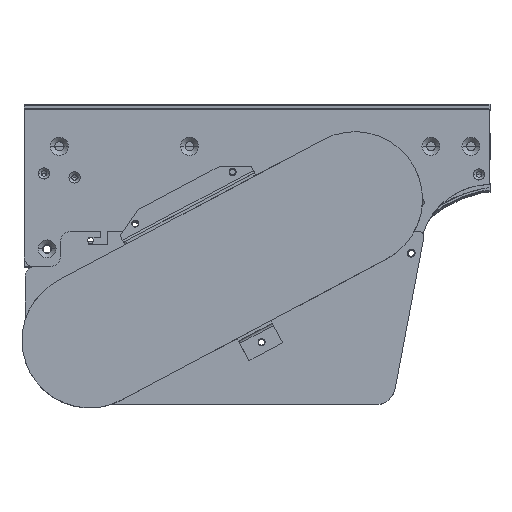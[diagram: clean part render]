
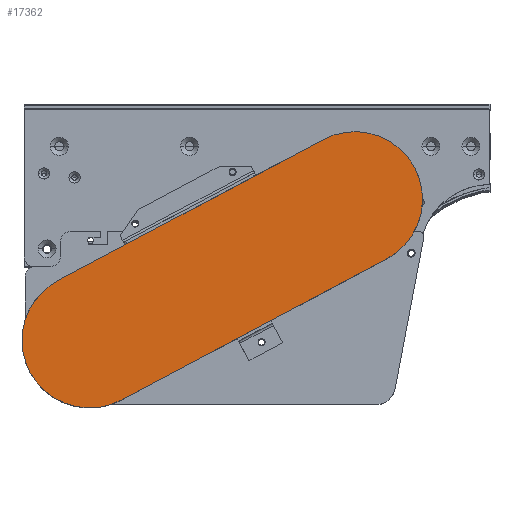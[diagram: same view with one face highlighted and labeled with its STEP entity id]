
A CAD part, top view. The second image highlights one B-rep face of the part: STEP entity #17362.
In plain terms, the highlighted planar face has unit normal (0, 0, 1).
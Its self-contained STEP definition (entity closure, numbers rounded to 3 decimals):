
#72 = CIRCLE ( 'NONE', #8050, 67.5 ) ;
#818 = VECTOR ( 'NONE', #12625, 1000. ) ;
#1345 = VERTEX_POINT ( 'NONE', #10501 ) ;
#1399 = CARTESIAN_POINT ( 'NONE',  ( 5.613, -225.488, 115.5 ) ) ;
#1446 = DIRECTION ( 'NONE',  ( -0.469, 0.883, 0. ) ) ;
#1865 = CARTESIAN_POINT ( 'NONE',  ( 65.212, -193.798, 115.5 ) ) ;
#2234 = VERTEX_POINT ( 'NONE', #12866 ) ;
#2292 = VECTOR ( 'NONE', #1446, 1000. ) ;
#2303 = ORIENTED_EDGE ( 'NONE', *, *, #11824, .T. ) ;
#2588 = LINE ( 'NONE', #19483, #8765 ) ;
#2819 = ORIENTED_EDGE ( 'NONE', *, *, #21972, .T. ) ;
#3898 = DIRECTION ( 'NONE',  ( 0., 0., 1. ) ) ;
#4210 = CIRCLE ( 'NONE', #7670, 67.49 ) ;
#4562 = CARTESIAN_POINT ( 'NONE',  ( 389.7, -21.276, 115.5 ) ) ;
#4686 = LINE ( 'NONE', #23078, #818 ) ;
#5678 = CARTESIAN_POINT ( 'NONE',  ( 65.208, -193.812, 115.5 ) ) ;
#6003 = DIRECTION ( 'NONE',  ( 1., 0., 0. ) ) ;
#6900 = CARTESIAN_POINT ( 'NONE',  ( 5.618, -225.497, 115.5 ) ) ;
#7110 = EDGE_CURVE ( 'NONE', #2234, #26380, #14036, .T. ) ;
#7276 = EDGE_CURVE ( 'NONE', #10854, #13849, #4686, .T. ) ;
#7337 = VERTEX_POINT ( 'NONE', #12974 ) ;
#7442 = VERTEX_POINT ( 'NONE', #25703 ) ;
#7670 = AXIS2_PLACEMENT_3D ( 'NONE', #5678, #19805, #23985 ) ;
#8050 = AXIS2_PLACEMENT_3D ( 'NONE', #23235, #3898, #24306 ) ;
#8071 = EDGE_CURVE ( 'NONE', #9202, #10854, #72, .T. ) ;
#8123 = ORIENTED_EDGE ( 'NONE', *, *, #7110, .T. ) ;
#8257 = VECTOR ( 'NONE', #26443, 1000. ) ;
#8448 = ORIENTED_EDGE ( 'NONE', *, *, #16601, .T. ) ;
#8765 = VECTOR ( 'NONE', #21548, 1000. ) ;
#9202 = VERTEX_POINT ( 'NONE', #11508 ) ;
#9971 = ORIENTED_EDGE ( 'NONE', *, *, #11202, .T. ) ;
#10208 = CARTESIAN_POINT ( 'NONE',  ( 96.892, -253.402, 115.5 ) ) ;
#10273 = AXIS2_PLACEMENT_3D ( 'NONE', #13575, #21739, #23866 ) ;
#10501 = CARTESIAN_POINT ( 'NONE',  ( 389.695, -21.268, 115.5 ) ) ;
#10631 = FACE_OUTER_BOUND ( 'NONE', #20506, .T. ) ;
#10693 = LINE ( 'NONE', #19564, #2292 ) ;
#10854 = VERTEX_POINT ( 'NONE', #1399 ) ;
#11202 = EDGE_CURVE ( 'NONE', #7442, #7337, #2588, .T. ) ;
#11508 = CARTESIAN_POINT ( 'NONE',  ( -2.288, -193.798, 115.5 ) ) ;
#11824 = EDGE_CURVE ( 'NONE', #26380, #15214, #12857, .T. ) ;
#11881 = DIRECTION ( 'NONE',  ( 0., 0., 1. ) ) ;
#12304 = AXIS2_PLACEMENT_3D ( 'NONE', #23890, #11881, #22043 ) ;
#12625 = DIRECTION ( 'NONE',  ( 0.469, -0.883, 0. ) ) ;
#12857 = CIRCLE ( 'NONE', #12304, 67.49 ) ;
#12866 = CARTESIAN_POINT ( 'NONE',  ( 96.892, -253.402, 115.5 ) ) ;
#12974 = CARTESIAN_POINT ( 'NONE',  ( 33.522, -134.199, 115.5 ) ) ;
#13575 = CARTESIAN_POINT ( 'NONE',  ( 330.11, -52.961, 115.5 ) ) ;
#13849 = VERTEX_POINT ( 'NONE', #6900 ) ;
#14036 = LINE ( 'NONE', #10208, #8257 ) ;
#14051 = DIRECTION ( 'NONE',  ( 0., 0., 1. ) ) ;
#15214 = VERTEX_POINT ( 'NONE', #4562 ) ;
#15359 = AXIS2_PLACEMENT_3D ( 'NONE', #22738, #18343, #6003 ) ;
#15705 = EDGE_CURVE ( 'NONE', #1345, #7442, #26503, .T. ) ;
#16074 = DIRECTION ( 'NONE',  ( 1., 0., 0. ) ) ;
#16601 = EDGE_CURVE ( 'NONE', #13849, #2234, #4210, .T. ) ;
#17362 = ADVANCED_FACE ( 'NONE', ( #10631 ), #25833, .T. ) ;
#18126 = ORIENTED_EDGE ( 'NONE', *, *, #8071, .T. ) ;
#18343 = DIRECTION ( 'NONE',  ( 0., 0., 1. ) ) ;
#19483 = CARTESIAN_POINT ( 'NONE',  ( 298.407, 6.642, 115.5 ) ) ;
#19564 = CARTESIAN_POINT ( 'NONE',  ( 389.7, -21.276, 115.5 ) ) ;
#19805 = DIRECTION ( 'NONE',  ( 0., 0., 1. ) ) ;
#20209 = ORIENTED_EDGE ( 'NONE', *, *, #7276, .T. ) ;
#20429 = CARTESIAN_POINT ( 'NONE',  ( 361.794, -112.551, 115.5 ) ) ;
#20506 = EDGE_LOOP ( 'NONE', ( #2303, #25253, #25849, #9971, #2819, #18126, #20209, #8448, #8123 ) ) ;
#20777 = EDGE_CURVE ( 'NONE', #15214, #1345, #10693, .T. ) ;
#21548 = DIRECTION ( 'NONE',  ( -0.883, -0.469, 0. ) ) ;
#21739 = DIRECTION ( 'NONE',  ( 0., 0., 1. ) ) ;
#21972 = EDGE_CURVE ( 'NONE', #7337, #9202, #22721, .T. ) ;
#22043 = DIRECTION ( 'NONE',  ( 1., 0., 0. ) ) ;
#22721 = CIRCLE ( 'NONE', #26394, 67.5 ) ;
#22738 = CARTESIAN_POINT ( 'NONE',  ( 330.096, -52.957, 115.5 ) ) ;
#23078 = CARTESIAN_POINT ( 'NONE',  ( 5.613, -225.488, 115.5 ) ) ;
#23235 = CARTESIAN_POINT ( 'NONE',  ( 65.212, -193.798, 115.5 ) ) ;
#23866 = DIRECTION ( 'NONE',  ( 1., 0., 0. ) ) ;
#23890 = CARTESIAN_POINT ( 'NONE',  ( 330.11, -52.961, 115.5 ) ) ;
#23985 = DIRECTION ( 'NONE',  ( 1., 0., 0. ) ) ;
#24306 = DIRECTION ( 'NONE',  ( 1., 0., 0. ) ) ;
#25253 = ORIENTED_EDGE ( 'NONE', *, *, #20777, .T. ) ;
#25703 = CARTESIAN_POINT ( 'NONE',  ( 298.407, 6.642, 115.5 ) ) ;
#25833 = PLANE ( 'NONE',  #10273 ) ;
#25849 = ORIENTED_EDGE ( 'NONE', *, *, #15705, .T. ) ;
#26380 = VERTEX_POINT ( 'NONE', #20429 ) ;
#26394 = AXIS2_PLACEMENT_3D ( 'NONE', #1865, #14051, #16074 ) ;
#26443 = DIRECTION ( 'NONE',  ( 0.883, 0.469, 0. ) ) ;
#26503 = CIRCLE ( 'NONE', #15359, 67.5 ) ;
